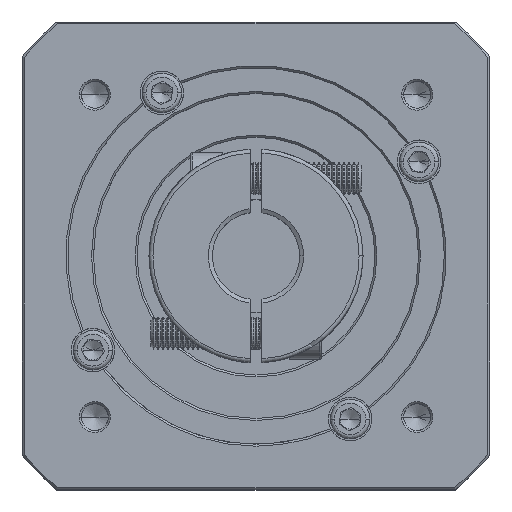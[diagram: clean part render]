
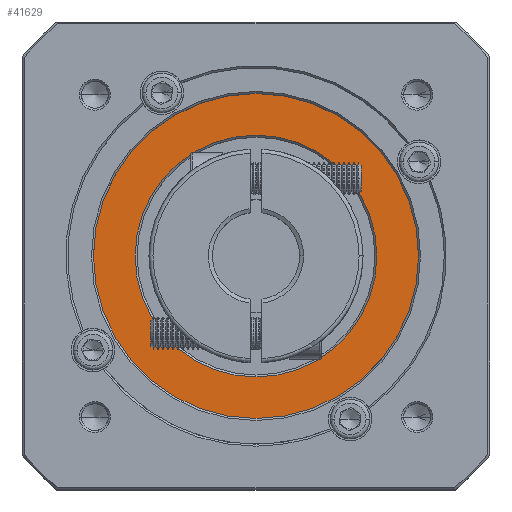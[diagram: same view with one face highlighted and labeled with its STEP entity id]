
A CAD part, top view. The second image highlights one B-rep face of the part: STEP entity #41629.
In plain terms, the highlighted planar face has unit normal (0, 0, 1).
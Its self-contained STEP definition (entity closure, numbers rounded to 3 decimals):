
#4001 = DIRECTION ( 'NONE',  ( 1., 0., 0. ) ) ;
#5214 = EDGE_LOOP ( 'NONE', ( #10501, #46975 ) ) ;
#6100 = EDGE_LOOP ( 'NONE', ( #69371, #77122 ) ) ;
#7886 = CIRCLE ( 'NONE', #9173, 30.5 ) ;
#9173 = AXIS2_PLACEMENT_3D ( 'NONE', #88309, #31609, #97885 ) ;
#10501 = ORIENTED_EDGE ( 'NONE', *, *, #20643, .T. ) ;
#13358 = CARTESIAN_POINT ( 'NONE',  ( 10.98, 115.772, -19.75 ) ) ;
#20643 = EDGE_CURVE ( 'NONE', #100096, #99904, #65812, .T. ) ;
#21012 = DIRECTION ( 'NONE',  ( 0., 0., 1. ) ) ;
#22431 = FACE_OUTER_BOUND ( 'NONE', #6100, .T. ) ;
#31609 = DIRECTION ( 'NONE',  ( 0., 0., -1. ) ) ;
#41629 = ADVANCED_FACE ( 'NONE', ( #22431, #120183 ), #86378, .T. ) ;
#42575 = DIRECTION ( 'NONE',  ( 0., 0., 1. ) ) ;
#43840 = CARTESIAN_POINT ( 'NONE',  ( 41.48, 115.772, -19.75 ) ) ;
#44332 = VERTEX_POINT ( 'NONE', #104869 ) ;
#45164 = CARTESIAN_POINT ( 'NONE',  ( 71.98, 115.772, -19.75 ) ) ;
#46975 = ORIENTED_EDGE ( 'NONE', *, *, #109400, .T. ) ;
#50193 = CIRCLE ( 'NONE', #76621, 41. ) ;
#50662 = AXIS2_PLACEMENT_3D ( 'NONE', #117420, #60697, #4001 ) ;
#53366 = DIRECTION ( 'NONE',  ( 1., 0., 0. ) ) ;
#60697 = DIRECTION ( 'NONE',  ( 0., 0., -1. ) ) ;
#65543 = VERTEX_POINT ( 'NONE', #107901 ) ;
#65812 = CIRCLE ( 'NONE', #50662, 30.5 ) ;
#69371 = ORIENTED_EDGE ( 'NONE', *, *, #120575, .T. ) ;
#72720 = AXIS2_PLACEMENT_3D ( 'NONE', #43840, #110131, #53366 ) ;
#76621 = AXIS2_PLACEMENT_3D ( 'NONE', #99349, #42575, #108858 ) ;
#77122 = ORIENTED_EDGE ( 'NONE', *, *, #103293, .T. ) ;
#77686 = CARTESIAN_POINT ( 'NONE',  ( 41.48, 115.772, -19.75 ) ) ;
#86378 = PLANE ( 'NONE',  #114256 ) ;
#87189 = DIRECTION ( 'NONE',  ( 1., 0., 0. ) ) ;
#88309 = CARTESIAN_POINT ( 'NONE',  ( 41.48, 115.772, -19.75 ) ) ;
#97885 = DIRECTION ( 'NONE',  ( 1., 0., 0. ) ) ;
#99349 = CARTESIAN_POINT ( 'NONE',  ( 41.48, 115.772, -19.75 ) ) ;
#99904 = VERTEX_POINT ( 'NONE', #13358 ) ;
#100096 = VERTEX_POINT ( 'NONE', #45164 ) ;
#103293 = EDGE_CURVE ( 'NONE', #44332, #65543, #50193, .T. ) ;
#104869 = CARTESIAN_POINT ( 'NONE',  ( 0.48, 115.772, -19.75 ) ) ;
#107901 = CARTESIAN_POINT ( 'NONE',  ( 82.48, 115.772, -19.75 ) ) ;
#108858 = DIRECTION ( 'NONE',  ( 1., 0., 0. ) ) ;
#109400 = EDGE_CURVE ( 'NONE', #99904, #100096, #7886, .T. ) ;
#110131 = DIRECTION ( 'NONE',  ( 0., 0., 1. ) ) ;
#112037 = CIRCLE ( 'NONE', #72720, 41. ) ;
#114256 = AXIS2_PLACEMENT_3D ( 'NONE', #77686, #21012, #87189 ) ;
#117420 = CARTESIAN_POINT ( 'NONE',  ( 41.48, 115.772, -19.75 ) ) ;
#120183 = FACE_BOUND ( 'NONE', #5214, .T. ) ;
#120575 = EDGE_CURVE ( 'NONE', #65543, #44332, #112037, .T. ) ;
